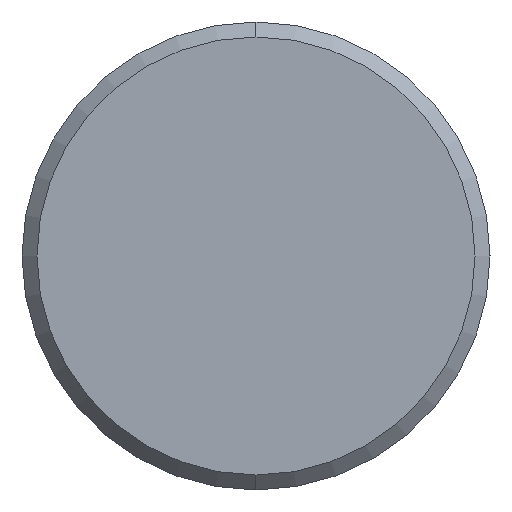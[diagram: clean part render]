
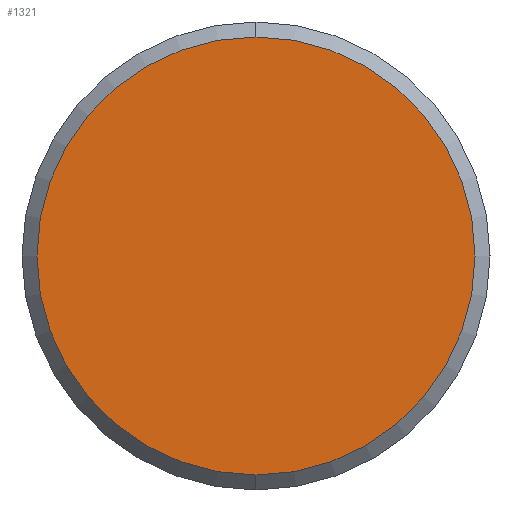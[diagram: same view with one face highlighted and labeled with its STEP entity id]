
A CAD part, left-side view. The second image highlights one B-rep face of the part: STEP entity #1321.
In plain terms, the highlighted planar face has unit normal (-1, 0, 0).
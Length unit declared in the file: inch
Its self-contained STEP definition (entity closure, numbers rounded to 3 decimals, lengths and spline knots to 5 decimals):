
#74 = EDGE_CURVE ( 'NONE', #1451, #836, #1723, .T. ) ;
#85 = ORIENTED_EDGE ( 'NONE', *, *, #74, .T. ) ;
#550 = CARTESIAN_POINT ( 'NONE',  ( 0., 0., 0. ) ) ;
#836 = VERTEX_POINT ( 'NONE', #2357 ) ;
#1100 = DIRECTION ( 'NONE',  ( -1., 0., 0. ) ) ;
#1162 = CARTESIAN_POINT ( 'NONE',  ( 0., 0., 0. ) ) ;
#1321 = ADVANCED_FACE ( 'NONE', ( #2371 ), #3317, .T. ) ;
#1451 = VERTEX_POINT ( 'NONE', #3378 ) ;
#1465 = CARTESIAN_POINT ( 'NONE',  ( 0., 0., 0. ) ) ;
#1723 = CIRCLE ( 'NONE', #2243, 0.1461 ) ;
#2243 = AXIS2_PLACEMENT_3D ( 'NONE', #550, #3032, #3276 ) ;
#2357 = CARTESIAN_POINT ( 'NONE',  ( 0., 0., 0.1461 ) ) ;
#2371 = FACE_OUTER_BOUND ( 'NONE', #2676, .T. ) ;
#2616 = EDGE_CURVE ( 'NONE', #836, #1451, #2743, .T. ) ;
#2676 = EDGE_LOOP ( 'NONE', ( #85, #3703 ) ) ;
#2712 = DIRECTION ( 'NONE',  ( 0., 0., 1. ) ) ;
#2743 = CIRCLE ( 'NONE', #3128, 0.1461 ) ;
#3032 = DIRECTION ( 'NONE',  ( -1., 0., 0. ) ) ;
#3035 = DIRECTION ( 'NONE',  ( -1., 0., 0. ) ) ;
#3128 = AXIS2_PLACEMENT_3D ( 'NONE', #1162, #3035, #2712 ) ;
#3276 = DIRECTION ( 'NONE',  ( 0., 0., 1. ) ) ;
#3317 = PLANE ( 'NONE',  #3476 ) ;
#3378 = CARTESIAN_POINT ( 'NONE',  ( 0., 0., -0.1461 ) ) ;
#3476 = AXIS2_PLACEMENT_3D ( 'NONE', #1465, #1100, #3887 ) ;
#3703 = ORIENTED_EDGE ( 'NONE', *, *, #2616, .T. ) ;
#3887 = DIRECTION ( 'NONE',  ( 0., 0., 1. ) ) ;
